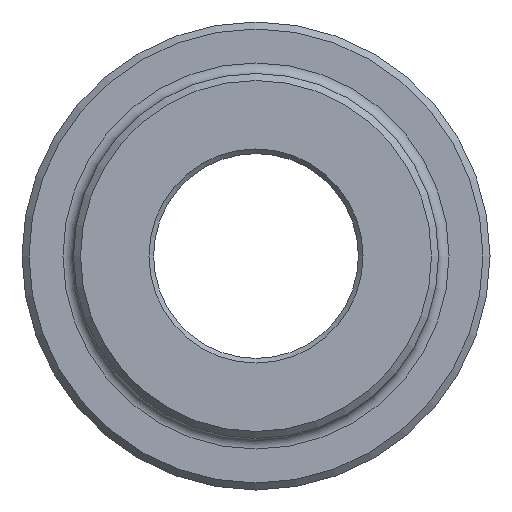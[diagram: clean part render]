
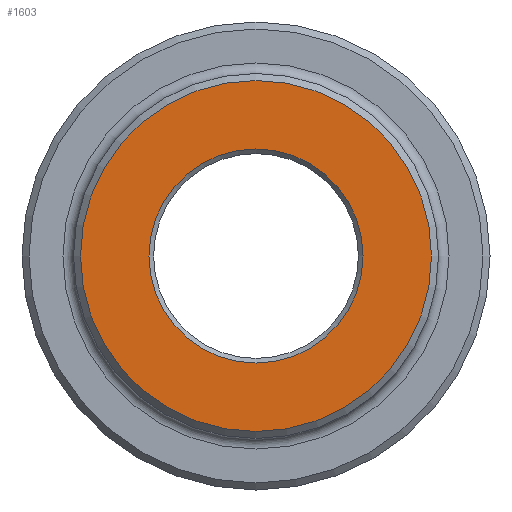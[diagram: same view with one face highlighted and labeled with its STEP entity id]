
A CAD part, left-side view. The second image highlights one B-rep face of the part: STEP entity #1603.
In plain terms, the highlighted planar face has unit normal (-1, 0, 0).
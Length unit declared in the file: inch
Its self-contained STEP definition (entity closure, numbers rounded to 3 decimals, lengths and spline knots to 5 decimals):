
#23 = VERTEX_POINT ( 'NONE', #595 ) ;
#26 = PLANE ( 'NONE',  #440 ) ;
#130 = FACE_OUTER_BOUND ( 'NONE', #244, .T. ) ;
#136 = DIRECTION ( 'NONE',  ( 1., 0., 0. ) ) ;
#184 = EDGE_CURVE ( 'NONE', #1018, #1018, #533, .T. ) ;
#193 = DIRECTION ( 'NONE',  ( 1., 0., 0. ) ) ;
#210 = DIRECTION ( 'NONE',  ( 0., 0., -1. ) ) ;
#244 = EDGE_LOOP ( 'NONE', ( #1431 ) ) ;
#259 = CARTESIAN_POINT ( 'NONE',  ( 0., 0., 0. ) ) ;
#275 = AXIS2_PLACEMENT_3D ( 'NONE', #259, #136, #1327 ) ;
#421 = DIRECTION ( 'NONE',  ( 0., 0., -1. ) ) ;
#440 = AXIS2_PLACEMENT_3D ( 'NONE', #999, #193, #421 ) ;
#462 = EDGE_LOOP ( 'NONE', ( #1807 ) ) ;
#505 = AXIS2_PLACEMENT_3D ( 'NONE', #1013, #1185, #210 ) ;
#533 = CIRCLE ( 'NONE', #275, 0.91525 ) ;
#595 = CARTESIAN_POINT ( 'NONE',  ( 0., 0., -1.5 ) ) ;
#837 = CIRCLE ( 'NONE', #505, 1.5 ) ;
#999 = CARTESIAN_POINT ( 'NONE',  ( 0., 0., 0. ) ) ;
#1013 = CARTESIAN_POINT ( 'NONE',  ( 0., 0., 0. ) ) ;
#1018 = VERTEX_POINT ( 'NONE', #1069 ) ;
#1069 = CARTESIAN_POINT ( 'NONE',  ( 0., 0., -0.91525 ) ) ;
#1185 = DIRECTION ( 'NONE',  ( -1., 0., 0. ) ) ;
#1205 = FACE_BOUND ( 'NONE', #462, .T. ) ;
#1327 = DIRECTION ( 'NONE',  ( 0., 0., -1. ) ) ;
#1431 = ORIENTED_EDGE ( 'NONE', *, *, #1432, .T. ) ;
#1432 = EDGE_CURVE ( 'NONE', #23, #23, #837, .T. ) ;
#1603 = ADVANCED_FACE ( 'NONE', ( #1205, #130 ), #26, .F. ) ;
#1807 = ORIENTED_EDGE ( 'NONE', *, *, #184, .T. ) ;
